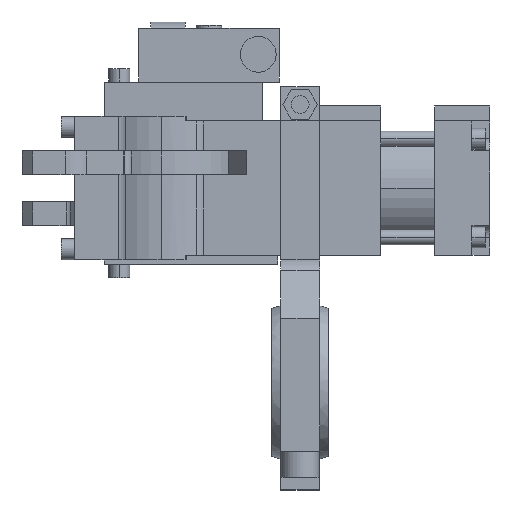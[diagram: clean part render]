
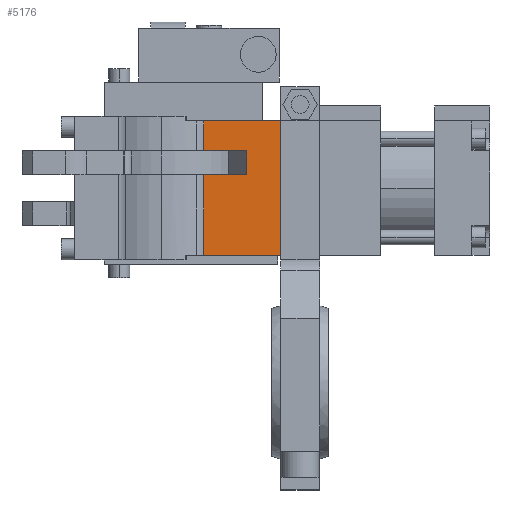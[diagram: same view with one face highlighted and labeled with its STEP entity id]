
A CAD part, left-side view. The second image highlights one B-rep face of the part: STEP entity #5176.
In plain terms, the highlighted planar face has unit normal (-1, 0, 0).
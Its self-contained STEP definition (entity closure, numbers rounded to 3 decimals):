
#380 = VECTOR ( 'NONE', #5462, 1000. ) ;
#690 = CARTESIAN_POINT ( 'NONE',  ( -22.5, -40., 22.5 ) ) ;
#813 = VERTEX_POINT ( 'NONE', #12511 ) ;
#843 = EDGE_CURVE ( 'NONE', #813, #4682, #2985, .T. ) ;
#1137 = CARTESIAN_POINT ( 'NONE',  ( -22.5, -40., 22.5 ) ) ;
#1766 = EDGE_CURVE ( 'NONE', #13475, #13540, #13579, .T. ) ;
#1891 = EDGE_CURVE ( 'NONE', #13540, #12888, #6492, .T. ) ;
#2441 = ORIENTED_EDGE ( 'NONE', *, *, #6786, .F. ) ;
#2819 = CARTESIAN_POINT ( 'NONE',  ( -22.5, -14.309, 4.5 ) ) ;
#2945 = VERTEX_POINT ( 'NONE', #1137 ) ;
#2985 = LINE ( 'NONE', #12950, #11297 ) ;
#3220 = VECTOR ( 'NONE', #8622, 1000. ) ;
#3399 = CARTESIAN_POINT ( 'NONE',  ( -22.5, -14.309, -22.5 ) ) ;
#3703 = DIRECTION ( 'NONE',  ( 0., 0., -1. ) ) ;
#3911 = CARTESIAN_POINT ( 'NONE',  ( -22.5, -14.309, 12.5 ) ) ;
#4357 = CARTESIAN_POINT ( 'NONE',  ( -22.5, -28.702, 12.5 ) ) ;
#4400 = CARTESIAN_POINT ( 'NONE',  ( -22.5, -14.309, 4.5 ) ) ;
#4682 = VERTEX_POINT ( 'NONE', #5292 ) ;
#4839 = CARTESIAN_POINT ( 'NONE',  ( -22.5, -40., 12.5 ) ) ;
#4968 = CARTESIAN_POINT ( 'NONE',  ( -22.5, -14.309, 12.5 ) ) ;
#5176 = ADVANCED_FACE ( 'NONE', ( #11470 ), #10700, .F. ) ;
#5292 = CARTESIAN_POINT ( 'NONE',  ( -22.5, -14.309, 12.5 ) ) ;
#5380 = VERTEX_POINT ( 'NONE', #6556 ) ;
#5462 = DIRECTION ( 'NONE',  ( 0., 0., 1. ) ) ;
#6049 = ORIENTED_EDGE ( 'NONE', *, *, #1766, .T. ) ;
#6147 = ORIENTED_EDGE ( 'NONE', *, *, #9166, .T. ) ;
#6200 = DIRECTION ( 'NONE',  ( 0., 1., 0. ) ) ;
#6492 = LINE ( 'NONE', #8566, #12503 ) ;
#6556 = CARTESIAN_POINT ( 'NONE',  ( -22.5, -14.309, 22.5 ) ) ;
#6716 = ORIENTED_EDGE ( 'NONE', *, *, #7290, .T. ) ;
#6786 = EDGE_CURVE ( 'NONE', #2945, #12888, #9669, .T. ) ;
#6802 = ORIENTED_EDGE ( 'NONE', *, *, #12482, .F. ) ;
#7290 = EDGE_CURVE ( 'NONE', #9259, #13475, #12310, .T. ) ;
#8566 = CARTESIAN_POINT ( 'NONE',  ( -22.5, -40., -22.5 ) ) ;
#8622 = DIRECTION ( 'NONE',  ( 0., 1., 0. ) ) ;
#8952 = DIRECTION ( 'NONE',  ( 0., 0., -1. ) ) ;
#8965 = EDGE_CURVE ( 'NONE', #2945, #5380, #12252, .T. ) ;
#9009 = CARTESIAN_POINT ( 'NONE',  ( -22.5, -40., -22.5 ) ) ;
#9045 = VECTOR ( 'NONE', #8952, 1000. ) ;
#9166 = EDGE_CURVE ( 'NONE', #5380, #4682, #9378, .T. ) ;
#9259 = VERTEX_POINT ( 'NONE', #11427 ) ;
#9288 = VECTOR ( 'NONE', #3703, 1000. ) ;
#9378 = LINE ( 'NONE', #12330, #9045 ) ;
#9669 = LINE ( 'NONE', #4839, #9288 ) ;
#10128 = LINE ( 'NONE', #4357, #380 ) ;
#10686 = DIRECTION ( 'NONE',  ( 0., 1., 0. ) ) ;
#10700 = PLANE ( 'NONE',  #11875 ) ;
#10818 = DIRECTION ( 'NONE',  ( 0., -1., 0. ) ) ;
#10931 = VECTOR ( 'NONE', #12892, 1000. ) ;
#11297 = VECTOR ( 'NONE', #13035, 1000. ) ;
#11427 = CARTESIAN_POINT ( 'NONE',  ( -22.5, -28.702, 4.5 ) ) ;
#11470 = FACE_OUTER_BOUND ( 'NONE', #12786, .T. ) ;
#11598 = VECTOR ( 'NONE', #10686, 1000. ) ;
#11766 = ORIENTED_EDGE ( 'NONE', *, *, #1891, .T. ) ;
#11875 = AXIS2_PLACEMENT_3D ( 'NONE', #3911, #12973, #6200 ) ;
#12252 = LINE ( 'NONE', #690, #3220 ) ;
#12302 = ORIENTED_EDGE ( 'NONE', *, *, #8965, .T. ) ;
#12310 = LINE ( 'NONE', #2819, #11598 ) ;
#12330 = CARTESIAN_POINT ( 'NONE',  ( -22.5, -14.309, 12.5 ) ) ;
#12482 = EDGE_CURVE ( 'NONE', #9259, #813, #10128, .T. ) ;
#12503 = VECTOR ( 'NONE', #10818, 1000. ) ;
#12511 = CARTESIAN_POINT ( 'NONE',  ( -22.5, -28.702, 12.5 ) ) ;
#12786 = EDGE_LOOP ( 'NONE', ( #13615, #6802, #6716, #6049, #11766, #2441, #12302, #6147 ) ) ;
#12888 = VERTEX_POINT ( 'NONE', #9009 ) ;
#12892 = DIRECTION ( 'NONE',  ( 0., 0., -1. ) ) ;
#12950 = CARTESIAN_POINT ( 'NONE',  ( -22.5, -14.309, 12.5 ) ) ;
#12973 = DIRECTION ( 'NONE',  ( 1., 0., 0. ) ) ;
#13035 = DIRECTION ( 'NONE',  ( 0., 1., 0. ) ) ;
#13475 = VERTEX_POINT ( 'NONE', #4400 ) ;
#13540 = VERTEX_POINT ( 'NONE', #3399 ) ;
#13579 = LINE ( 'NONE', #4968, #10931 ) ;
#13615 = ORIENTED_EDGE ( 'NONE', *, *, #843, .F. ) ;
